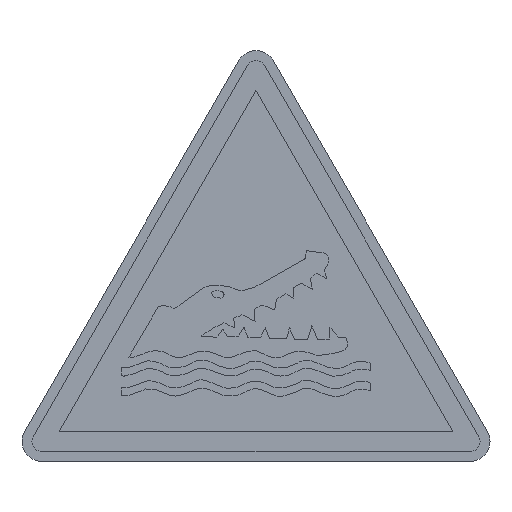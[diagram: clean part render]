
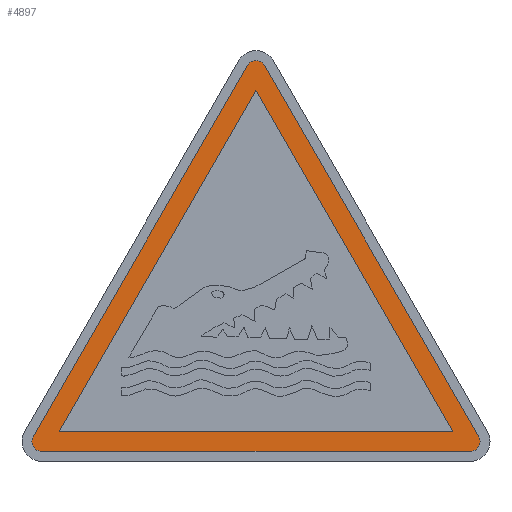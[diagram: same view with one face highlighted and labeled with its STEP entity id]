
A CAD part, top view. The second image highlights one B-rep face of the part: STEP entity #4897.
In plain terms, the highlighted planar face has unit normal (0, 0, 1).
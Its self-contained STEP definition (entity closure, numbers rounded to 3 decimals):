
#149 = EDGE_CURVE ( 'NONE', #11646, #6802, #16209, .T. ) ;
#1072 = CARTESIAN_POINT ( 'NONE',  ( 0., 37.301, 0.22 ) ) ;
#1169 = AXIS2_PLACEMENT_3D ( 'NONE', #1789, #5438, #14160 ) ;
#1299 = DIRECTION ( 'NONE',  ( 0., 0., 1. ) ) ;
#1524 = DIRECTION ( 'NONE',  ( 0., 0., 1. ) ) ;
#1550 = DIRECTION ( 'NONE',  ( -0.5, 0.866, 0. ) ) ;
#1599 = CARTESIAN_POINT ( 'NONE',  ( -0.866, 39.801, 0.22 ) ) ;
#1789 = CARTESIAN_POINT ( 'NONE',  ( 21.536, 2., 0.22 ) ) ;
#1808 = ORIENTED_EDGE ( 'NONE', *, *, #11805, .T. ) ;
#1824 = VERTEX_POINT ( 'NONE', #3186 ) ;
#2281 = VERTEX_POINT ( 'NONE', #3300 ) ;
#2306 = CARTESIAN_POINT ( 'NONE',  ( -21.536, 2., 0.22 ) ) ;
#2451 = DIRECTION ( 'NONE',  ( 0., 0., 1. ) ) ;
#2879 = CARTESIAN_POINT ( 'NONE',  ( -21.536, 1., 0.22 ) ) ;
#3186 = CARTESIAN_POINT ( 'NONE',  ( 21.536, 1., 0.22 ) ) ;
#3300 = CARTESIAN_POINT ( 'NONE',  ( -21.536, 1., 0.22 ) ) ;
#3394 = DIRECTION ( 'NONE',  ( -0.5, -0.866, 0. ) ) ;
#3521 = CARTESIAN_POINT ( 'NONE',  ( -22.402, 2.5, 0.22 ) ) ;
#3813 = EDGE_CURVE ( 'NONE', #5436, #11646, #7806, .T. ) ;
#4557 = EDGE_LOOP ( 'NONE', ( #11670, #4883, #8291 ) ) ;
#4883 = ORIENTED_EDGE ( 'NONE', *, *, #149, .F. ) ;
#4897 = ADVANCED_FACE ( 'NONE', ( #12843, #9349 ), #14366, .T. ) ;
#5088 = VECTOR ( 'NONE', #3394, 1000. ) ;
#5339 = CARTESIAN_POINT ( 'NONE',  ( 19.804, 3., 0.22 ) ) ;
#5340 = VECTOR ( 'NONE', #5662, 1000. ) ;
#5436 = VERTEX_POINT ( 'NONE', #8486 ) ;
#5438 = DIRECTION ( 'NONE',  ( 0., 0., 1. ) ) ;
#5547 = CIRCLE ( 'NONE', #10006, 1. ) ;
#5563 = CARTESIAN_POINT ( 'NONE',  ( 0., 39.301, 0.22 ) ) ;
#5662 = DIRECTION ( 'NONE',  ( 1., 0., 0. ) ) ;
#5992 = DIRECTION ( 'NONE',  ( 1., 0., 0. ) ) ;
#6113 = EDGE_CURVE ( 'NONE', #1824, #11058, #15346, .T. ) ;
#6243 = CARTESIAN_POINT ( 'NONE',  ( 22.402, 2.5, 0.22 ) ) ;
#6262 = CIRCLE ( 'NONE', #12881, 1. ) ;
#6802 = VERTEX_POINT ( 'NONE', #11308 ) ;
#7113 = EDGE_CURVE ( 'NONE', #6802, #5436, #16190, .T. ) ;
#7806 = LINE ( 'NONE', #5339, #15161 ) ;
#8093 = EDGE_CURVE ( 'NONE', #13221, #15527, #8969, .T. ) ;
#8194 = CARTESIAN_POINT ( 'NONE',  ( 22.402, 2.5, 0.22 ) ) ;
#8291 = ORIENTED_EDGE ( 'NONE', *, *, #3813, .F. ) ;
#8486 = CARTESIAN_POINT ( 'NONE',  ( 19.804, 3., 0.22 ) ) ;
#8645 = CARTESIAN_POINT ( 'NONE',  ( 0., 37.301, 0.22 ) ) ;
#8755 = VERTEX_POINT ( 'NONE', #11643 ) ;
#8961 = ORIENTED_EDGE ( 'NONE', *, *, #10608, .T. ) ;
#8969 = LINE ( 'NONE', #9533, #12819 ) ;
#9349 = FACE_BOUND ( 'NONE', #4557, .T. ) ;
#9369 = DIRECTION ( 'NONE',  ( -0.5, -0.866, 0. ) ) ;
#9403 = ORIENTED_EDGE ( 'NONE', *, *, #12449, .T. ) ;
#9473 = LINE ( 'NONE', #2879, #5340 ) ;
#9533 = CARTESIAN_POINT ( 'NONE',  ( -0.866, 39.801, 0.22 ) ) ;
#10006 = AXIS2_PLACEMENT_3D ( 'NONE', #2306, #15967, #16117 ) ;
#10340 = ORIENTED_EDGE ( 'NONE', *, *, #6113, .T. ) ;
#10349 = DIRECTION ( 'NONE',  ( 1., 0., 0. ) ) ;
#10538 = DIRECTION ( 'NONE',  ( -0.5, 0.866, 0. ) ) ;
#10608 = EDGE_CURVE ( 'NONE', #13043, #2281, #5547, .T. ) ;
#10719 = AXIS2_PLACEMENT_3D ( 'NONE', #5563, #1524, #10349 ) ;
#10830 = VECTOR ( 'NONE', #1550, 1000. ) ;
#10899 = DIRECTION ( 'NONE',  ( 1., 0., 0. ) ) ;
#11058 = VERTEX_POINT ( 'NONE', #6243 ) ;
#11179 = EDGE_CURVE ( 'NONE', #11058, #8755, #12950, .T. ) ;
#11308 = CARTESIAN_POINT ( 'NONE',  ( -19.804, 3., 0.22 ) ) ;
#11378 = DIRECTION ( 'NONE',  ( 1., 0., 0. ) ) ;
#11545 = CARTESIAN_POINT ( 'NONE',  ( 0., 39.301, 0.22 ) ) ;
#11643 = CARTESIAN_POINT ( 'NONE',  ( 0.866, 39.801, 0.22 ) ) ;
#11646 = VERTEX_POINT ( 'NONE', #8645 ) ;
#11670 = ORIENTED_EDGE ( 'NONE', *, *, #7113, .F. ) ;
#11686 = EDGE_LOOP ( 'NONE', ( #13097, #14262, #9403, #8961, #1808, #10340, #13835 ) ) ;
#11805 = EDGE_CURVE ( 'NONE', #2281, #1824, #9473, .T. ) ;
#12398 = CARTESIAN_POINT ( 'NONE',  ( -21.536, 2., 0.22 ) ) ;
#12449 = EDGE_CURVE ( 'NONE', #15527, #13043, #15628, .T. ) ;
#12819 = VECTOR ( 'NONE', #9369, 1000. ) ;
#12843 = FACE_OUTER_BOUND ( 'NONE', #11686, .T. ) ;
#12881 = AXIS2_PLACEMENT_3D ( 'NONE', #11545, #1299, #11378 ) ;
#12950 = LINE ( 'NONE', #8194, #10830 ) ;
#13043 = VERTEX_POINT ( 'NONE', #16081 ) ;
#13051 = AXIS2_PLACEMENT_3D ( 'NONE', #12398, #2451, #10899 ) ;
#13097 = ORIENTED_EDGE ( 'NONE', *, *, #14452, .T. ) ;
#13221 = VERTEX_POINT ( 'NONE', #1599 ) ;
#13805 = VECTOR ( 'NONE', #5992, 1000. ) ;
#13835 = ORIENTED_EDGE ( 'NONE', *, *, #11179, .T. ) ;
#14160 = DIRECTION ( 'NONE',  ( 1., 0., 0. ) ) ;
#14262 = ORIENTED_EDGE ( 'NONE', *, *, #8093, .T. ) ;
#14366 = PLANE ( 'NONE',  #10719 ) ;
#14452 = EDGE_CURVE ( 'NONE', #8755, #13221, #6262, .T. ) ;
#15161 = VECTOR ( 'NONE', #10538, 1000. ) ;
#15346 = CIRCLE ( 'NONE', #1169, 1. ) ;
#15527 = VERTEX_POINT ( 'NONE', #3521 ) ;
#15628 = CIRCLE ( 'NONE', #13051, 1. ) ;
#15851 = CARTESIAN_POINT ( 'NONE',  ( -19.804, 3., 0.22 ) ) ;
#15967 = DIRECTION ( 'NONE',  ( 0., 0., 1. ) ) ;
#16081 = CARTESIAN_POINT ( 'NONE',  ( -22.536, 2., 0.22 ) ) ;
#16117 = DIRECTION ( 'NONE',  ( 1., 0., 0. ) ) ;
#16190 = LINE ( 'NONE', #15851, #13805 ) ;
#16209 = LINE ( 'NONE', #1072, #5088 ) ;
